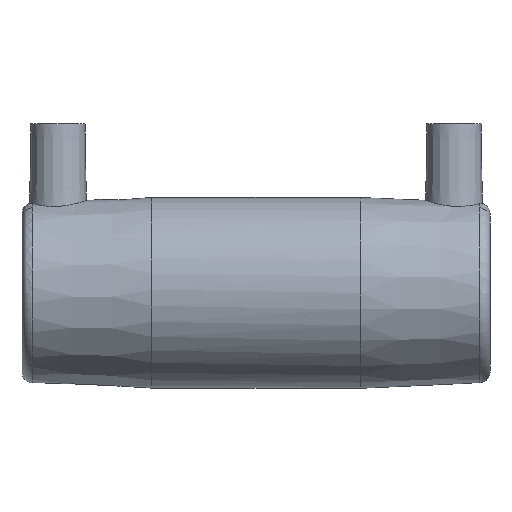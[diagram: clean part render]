
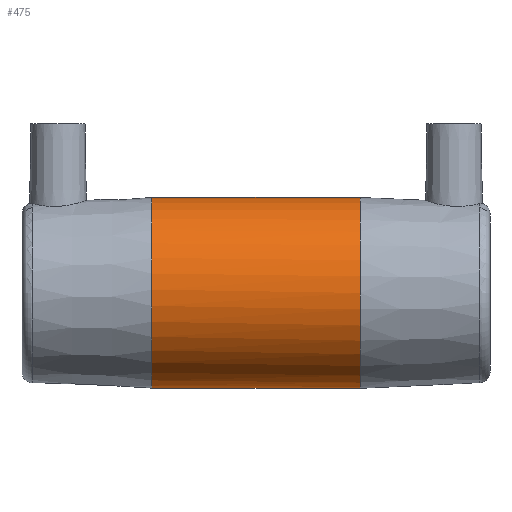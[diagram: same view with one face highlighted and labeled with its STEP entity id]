
A CAD part, front view. The second image highlights one B-rep face of the part: STEP entity #475.
In plain terms, the highlighted cylindrical face has radius 26.5 mm (diameter 53 mm), a full revolution.
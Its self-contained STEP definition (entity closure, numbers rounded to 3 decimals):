
#79=B_SPLINE_CURVE_WITH_KNOTS('',3,(#1039,#1040,#1041,#1042,#1043,#1044,
#1045,#1046,#1047,#1048,#1049,#1050,#1051,#1052,#1053,#1054,#1055,#1056,
#1057,#1058,#1059,#1060,#1061,#1062,#1063,#1064,#1065,#1066,#1067,#1068,
#1069,#1070,#1071,#1072,#1073,#1074,#1075,#1076,#1077,#1078),
 .UNSPECIFIED.,.T.,.F.,(1,1,1,1,1,1,1,1,1,1,1,1,1,1,1,1,1,1,1,1,1,1,1,1,
1,1,1,1,1,1,1,1,1,1,1,1,1,1,1,1,1,1,1,1),(-0.009,-0.007,
-0.005,0.,0.005,0.007,
0.009,0.014,0.019,0.023,
0.028,0.033,0.038,0.042,
0.047,0.052,0.056,0.061,
0.063,0.066,0.07,0.073,
0.075,0.08,0.084,0.089,
0.094,0.099,0.103,0.108,
0.113,0.117,0.122,0.127,
0.131,0.134,0.136,0.141,
0.143,0.145,0.15,0.155,
0.157,0.16),.UNSPECIFIED.);
#139=ORIENTED_EDGE('',*,*,#215,.T.);
#140=ORIENTED_EDGE('',*,*,#214,.F.);
#141=ORIENTED_EDGE('',*,*,#219,.T.);
#214=EDGE_CURVE('',#263,#263,#296,.T.);
#215=EDGE_CURVE('',#264,#264,#79,.T.);
#219=EDGE_CURVE('',#268,#268,#299,.T.);
#263=VERTEX_POINT('',#909);
#264=VERTEX_POINT('',#1079);
#268=VERTEX_POINT('',#1094);
#296=CIRCLE('',#543,26.5);
#299=CIRCLE('',#549,26.5);
#350=EDGE_LOOP('',(#139));
#351=EDGE_LOOP('',(#140));
#352=EDGE_LOOP('',(#141));
#418=FACE_BOUND('',#350,.T.);
#419=FACE_BOUND('',#351,.T.);
#420=FACE_BOUND('',#352,.T.);
#449=CYLINDRICAL_SURFACE('',#548,26.5);
#475=ADVANCED_FACE('',(#418,#419,#420),#449,.T.);
#543=AXIS2_PLACEMENT_3D('',#908,#655,#656);
#548=AXIS2_PLACEMENT_3D('',#1092,#665,#666);
#549=AXIS2_PLACEMENT_3D('',#1093,#667,#668);
#655=DIRECTION('',(-1.,0.,0.));
#656=DIRECTION('',(0.,0.,1.));
#665=DIRECTION('',(-1.,0.,0.));
#666=DIRECTION('',(0.,0.,1.));
#667=DIRECTION('',(-1.,0.,0.));
#668=DIRECTION('',(0.,0.,1.));
#908=CARTESIAN_POINT('',(-29.,0.,0.));
#909=CARTESIAN_POINT('',(-29.,0.,26.5));
#1039=CARTESIAN_POINT('',(22.964,26.282,-3.937));
#1040=CARTESIAN_POINT('',(23.44,26.645,0.005));
#1041=CARTESIAN_POINT('',(22.966,26.284,3.922));
#1042=CARTESIAN_POINT('',(22.106,25.638,6.823));
#1043=CARTESIAN_POINT('',(20.935,24.771,9.604));
#1044=CARTESIAN_POINT('',(19.004,23.373,12.685));
#1045=CARTESIAN_POINT('',(16.089,21.383,15.78));
#1046=CARTESIAN_POINT('',(12.701,19.29,18.252));
#1047=CARTESIAN_POINT('',(8.91,17.32,20.103));
#1048=CARTESIAN_POINT('',(4.637,15.749,21.327));
#1049=CARTESIAN_POINT('',(-0.035,15.111,21.767));
#1050=CARTESIAN_POINT('',(-4.697,15.766,21.315));
#1051=CARTESIAN_POINT('',(-8.949,17.339,20.088));
#1052=CARTESIAN_POINT('',(-12.743,19.313,18.227));
#1053=CARTESIAN_POINT('',(-16.119,21.404,15.752));
#1054=CARTESIAN_POINT('',(-18.528,23.049,13.186));
#1055=CARTESIAN_POINT('',(-20.157,24.207,10.846));
#1056=CARTESIAN_POINT('',(-21.591,25.253,8.25));
#1057=CARTESIAN_POINT('',(-22.614,26.019,5.422));
#1058=CARTESIAN_POINT('',(-23.158,26.43,2.34));
#1059=CARTESIAN_POINT('',(-23.341,26.569,-0.733));
#1060=CARTESIAN_POINT('',(-22.888,26.224,-4.651));
#1061=CARTESIAN_POINT('',(-21.354,25.075,-8.917));
#1062=CARTESIAN_POINT('',(-19.039,23.397,-12.644));
#1063=CARTESIAN_POINT('',(-16.121,21.405,-15.75));
#1064=CARTESIAN_POINT('',(-12.752,19.319,-18.221));
#1065=CARTESIAN_POINT('',(-8.94,17.334,-20.093));
#1066=CARTESIAN_POINT('',(-4.675,15.759,-21.32));
#1067=CARTESIAN_POINT('',(0.002,15.11,-21.768));
#1068=CARTESIAN_POINT('',(4.672,15.76,-21.319));
#1069=CARTESIAN_POINT('',(8.921,17.325,-20.1));
#1070=CARTESIAN_POINT('',(12.736,19.31,-18.23));
#1071=CARTESIAN_POINT('',(15.533,21.04,-16.185));
#1072=CARTESIAN_POINT('',(17.562,22.389,-14.216));
#1073=CARTESIAN_POINT('',(19.384,23.648,-12.074));
#1074=CARTESIAN_POINT('',(20.925,24.764,-9.624));
#1075=CARTESIAN_POINT('',(22.101,25.634,-6.838));
#1076=CARTESIAN_POINT('',(22.964,26.282,-3.937));
#1077=CARTESIAN_POINT('',(23.44,26.645,0.005));
#1078=CARTESIAN_POINT('',(22.966,26.284,3.922));
#1079=CARTESIAN_POINT('',(23.25,26.5,0.));
#1092=CARTESIAN_POINT('',(-60.,0.,0.));
#1093=CARTESIAN_POINT('',(29.,0.,0.));
#1094=CARTESIAN_POINT('',(29.,0.,26.5));
